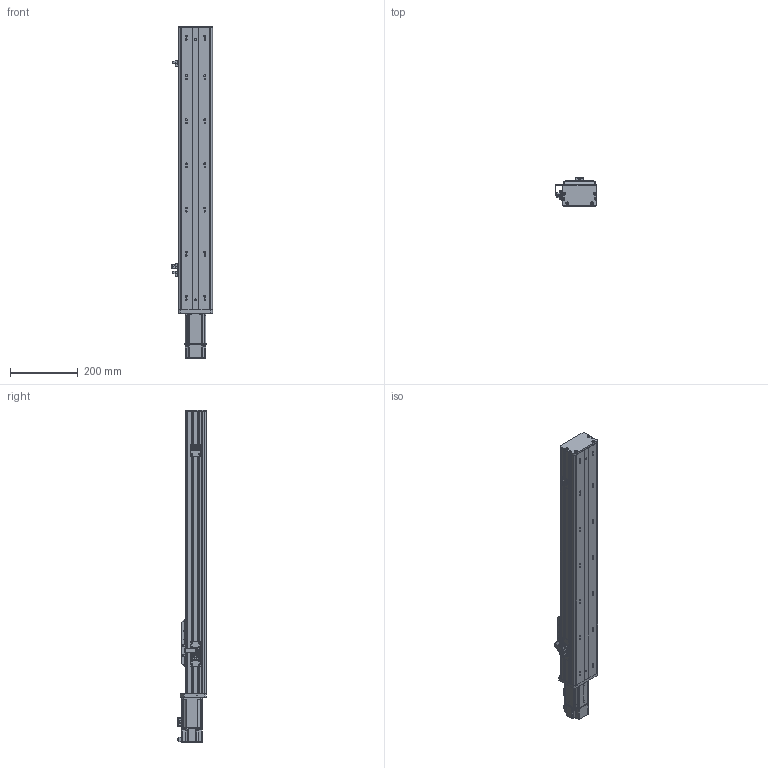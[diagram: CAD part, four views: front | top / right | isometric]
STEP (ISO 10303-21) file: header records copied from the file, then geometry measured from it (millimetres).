
FILE_DESCRIPTION (( 'STEP AP203' ), '1' );
FILE_NAME ('BOSW100-600-1610-1P-CM-M400W-O-S3（方程式2016）.step', '2020-10-10T06:34:11', ( '' ), ( '' ), 'SwSTEP 2.0', 'SolidWorks 2016', '' );
FILE_SCHEMA (( 'CONFIG_CONTROL_DESIGN' ));
Length unit declared in the file: millimetre
Products named in the file (13): BOSW-100-1P-CM-宽轨-钢带-600客户图纸; BOSW-100-綴裔啣; BOSW&TW-100-詩湍揤沭(陔賦凳); 放大器内置U型微型光电传感器PM-L65; BOSW-100-1P-CM-宽轨-侧板-600客户图纸; BOSW100-600-1610-1P-CM-M400W-O-S3（方程式2016）; S400W(SMA-L040); 俋境嫖覜嘐隅啣; BOSW&TW-100-1P-賑雄釱欶; BOSW&TW-100-俋离覜茼え; BOSW-100-CM-宽轨-三菱M200W&400W马达板(新结构); BOSW-100-1P-CM-600諦誧芞; 新结构AIMSW-100-1P-宽&高轨共用-滑动座上组件
Assembly tree (18 placements, depth 2):
  BOSW100-600-1610-1P-CM-M400W-O-S3（方程式2016）
    BOSW-100-1P-CM-600諦誧芞
    BOSW-100-綴裔啣
    新结构AIMSW-100-1P-宽&高轨共用-滑动座上组件
    S400W(SMA-L040)
    BOSW&TW-100-詩湍揤沭(陔賦凳)  x2
    BOSW&TW-100-1P-賑雄釱欶
    BOSW&TW-100-俋离覜茼え
    俋境嫖覜嘐隅啣  x3
    放大器内置U型微型光电传感器PM-L65  x3
    BOSW-100-CM-宽轨-三菱M200W&400W马达板(新结构)
    BOSW-100-1P-CM-宽轨-侧板-600客户图纸  x2
    BOSW-100-1P-CM-宽轨-钢带-600客户图纸
Bounding box: 120.9 x 85.5 x 977.8 mm (x, y, z)
Volume: 1927813.6 mm3; surface area: 867820.4 mm2
Topology: 18 solids, 18 shells, 2509 faces, 6618 edges, 4221 vertices
Faces by surface type: plane 1224, cylinder 801, bspline 271, cone 165, torus 36, sphere 12
Entity records: 68632 total; most frequent: CARTESIAN_POINT 20648, ORIENTED_EDGE 9776, DIRECTION 9494, EDGE_CURVE 4888, AXIS2_PLACEMENT_3D 3384, VERTEX_POINT 3123, LINE 2726, VECTOR 2726
